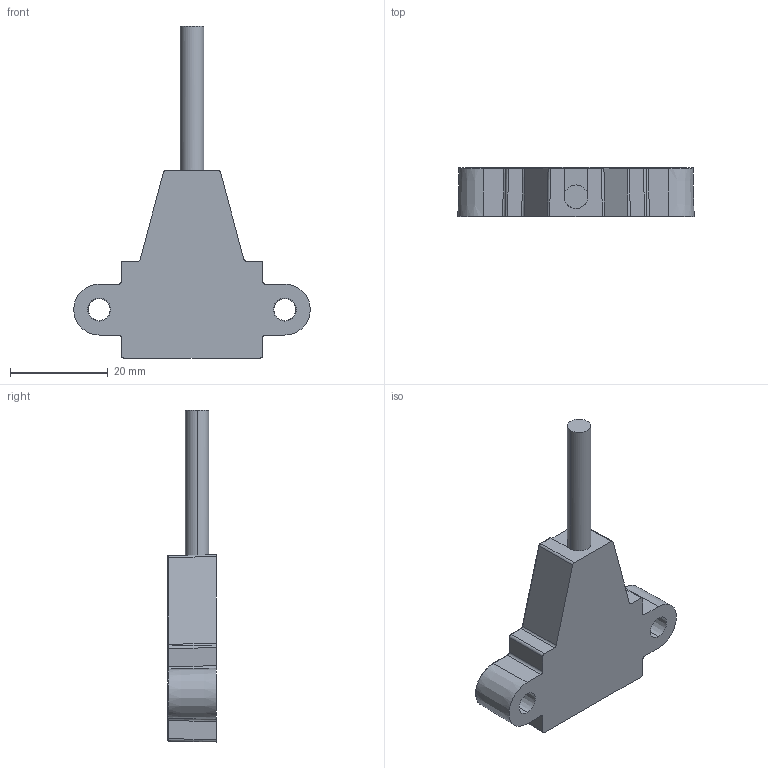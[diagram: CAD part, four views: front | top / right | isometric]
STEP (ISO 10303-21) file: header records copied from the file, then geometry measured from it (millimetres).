
FILE_DESCRIPTION (( 'STEP AP203' ), '1' );
FILE_NAME ('302191_GA6 32.STEP', '2026-09-15T14:10:21', ( '' ), ( '' ), 'SwSTEP 2.0', 'SolidWorks 2025', '' );
FILE_SCHEMA (( 'CONFIG_CONTROL_DESIGN' ));
Length unit declared in the file: millimetre
Products named in the file (1): 302191_GA6 32
Bounding box: 48.4 x 10 x 67.93 mm (x, y, z)
Volume: 10053.3 mm3; surface area: 4405.9 mm2
Topology: 1 solids, 1 shells, 137 faces, 371 edges, 238 vertices
Faces by surface type: cylinder 52, plane 35, bspline 24, torus 16, cone 10
Entity records: 4559 total; most frequent: CARTESIAN_POINT 1260, ORIENTED_EDGE 742, DIRECTION 641, EDGE_CURVE 371, AXIS2_PLACEMENT_3D 239, VERTEX_POINT 238, VECTOR 163, LINE 163
